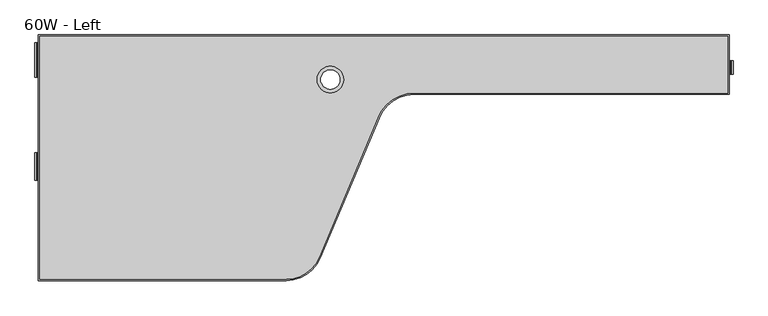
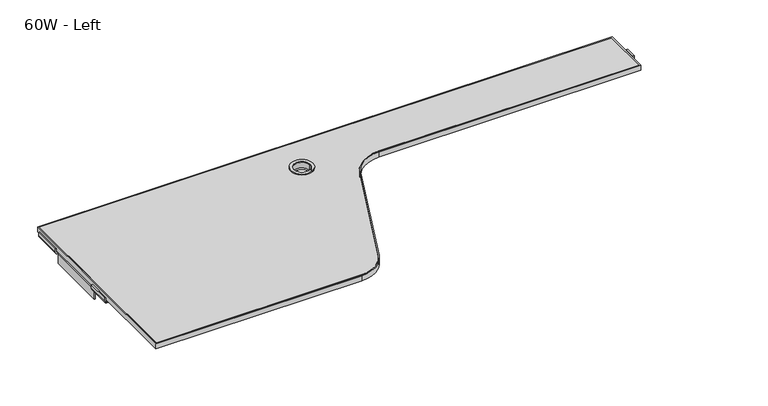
"""IFC4 building model written with IfcOpenShell, lengths in millimetres: furniture geometry, Steelcase Turnstone - Bivi - Table - Dual Top - Upper : 60W - Left."""

import ifcopenshell
import ifcopenshell.guid

model = None  # the IFC model being written
_history = None  # IfcOwnerHistory: only IFC2X3 demands one
_inside = {}  # id of a spatial element -> (the spatial element, [elements in it])
_under = {}  # id of a project, library or spatial element -> (it, [spatial elements below it])
_declared = {}  # id of a project -> (the project, [libraries it declares])
_typed = {}  # id of a type object -> (the type object, [elements of that type])
_made_of = {}  # id of a material, layer set ... -> (it, [elements and type objects made of it])


def new_model(schema):
    """Start an empty IFC model of exactly this schema.

    Asked for "IFC4X3", IfcOpenShell would pick the latest addendum, in which some entities
    have other attributes; the version numbers below select the first issue.
    IFC2X3 requires an IfcOwnerHistory on every rooted entity: one is made here for all.
    """
    global model, _history
    if schema == "IFC4X3":
        model = ifcopenshell.file(schema_version=(4, 3, 0, 0))
    else:
        model = ifcopenshell.file(schema=schema)
    _inside.clear()
    _under.clear()
    _declared.clear()
    _typed.clear()
    _made_of.clear()
    _history = None
    if model.schema == "IFC2X3":
        org = make("IfcOrganization", Name="unknown")
        user = make(
            "IfcPersonAndOrganization",
            ThePerson=make("IfcPerson", FamilyName="unknown"),
            TheOrganization=org,
        )
        app = make(
            "IfcApplication",
            ApplicationDeveloper=org,
            Version="unknown",
            ApplicationFullName="unknown",
            ApplicationIdentifier="unknown",
        )
        _history = make(
            "IfcOwnerHistory",
            OwningUser=user,
            OwningApplication=app,
            ChangeAction="ADDED",
            CreationDate=0,
        )
    return model


def make(cls, **values):
    """One entity of the class cls with the attributes given. An attribute that is None is left unset."""
    return model.create_entity(
        cls, **{name: value for name, value in values.items() if value is not None}
    )


def rooted(cls, **values):
    """An entity with a GlobalId (a new one), such as an element, a storey or a relation."""
    return make(cls, GlobalId=ifcopenshell.guid.new(), OwnerHistory=_history, **values)


def si_unit(unit_type, name, prefix=None):
    """IfcSIUnit, for example si_unit("LENGTHUNIT", "METRE", prefix="MILLI")."""
    return make("IfcSIUnit", UnitType=unit_type, Prefix=prefix, Name=name)


def assignment(units):
    """IfcUnitAssignment: the units of a project."""
    return None if units is None else make("IfcUnitAssignment", Units=units)


def point(xyz):
    """IfcCartesianPoint."""
    return None if xyz is None else make("IfcCartesianPoint", Coordinates=xyz)


def direction(xyz):
    """IfcDirection."""
    return None if xyz is None else make("IfcDirection", DirectionRatios=xyz)


def frame(location, z_axis=None, x_axis=None):
    """IfcAxis2Placement3D, a coordinate frame: its origin and axes. An axis left out is left unset."""
    return make(
        "IfcAxis2Placement3D",
        Location=point(location),
        Axis=direction(z_axis),
        RefDirection=direction(x_axis),
    )


def frame_2d(location, x_axis=None):
    """IfcAxis2Placement2D, a coordinate frame in the plane: its origin and x axis."""
    return make(
        "IfcAxis2Placement2D", Location=point(location), RefDirection=direction(x_axis)
    )


def origin():
    """The frame at (0, 0, 0) with its axes left unset."""
    return frame((0.0, 0.0, 0.0))


def place(relative_to, where):
    """IfcLocalPlacement: puts the frame where relative to a parent placement (None: the world)."""
    return make(
        "IfcLocalPlacement", PlacementRelTo=relative_to, RelativePlacement=where
    )


def context(
    kind, dimensions, precision=None, world=None, true_north=None, identifier=None
):
    """IfcGeometricRepresentationContext, for example the 3D "Model" context."""
    return make(
        "IfcGeometricRepresentationContext",
        ContextIdentifier=identifier,
        ContextType=kind,
        CoordinateSpaceDimension=dimensions,
        Precision=precision,
        WorldCoordinateSystem=world,
        TrueNorth=true_north,
    )


def project(units=None, contexts=None):
    """IfcProject with its units and contexts."""
    return rooted(
        "IfcProject",
        Name="project",
        RepresentationContexts=contexts,
        UnitsInContext=assignment(units),
    )


def spatial(cls, under=None, at=None, **own):
    """A site, building, storey or space (cls), placed at a placement, below another one or the project."""
    s = rooted(cls, ObjectPlacement=at, **own)
    if under is not None:
        _under.setdefault(under.id(), (under, []))[1].append(s)
    return s


def polyline(points):
    """IfcPolyline through the points."""
    return make("IfcPolyline", Points=[point(p) for p in points])


def circle_curve(where, radius):
    """IfcCircle in the frame where."""
    return make("IfcCircle", Position=where, Radius=radius)


def trimmed(basis, trim1, trim2, sense, master):
    """IfcTrimmedCurve: the piece of a basis curve between two trims."""
    return make(
        "IfcTrimmedCurve",
        BasisCurve=basis,
        Trim1=trim1,
        Trim2=trim2,
        SenseAgreement=sense,
        MasterRepresentation=master,
    )


def segment(curve, same_sense, transition):
    """IfcCompositeCurveSegment."""
    return make(
        "IfcCompositeCurveSegment",
        Transition=transition,
        SameSense=same_sense,
        ParentCurve=curve,
    )


def composite_curve(segments, self_intersect=None):
    """IfcCompositeCurve: segments joined end to end."""
    return make("IfcCompositeCurve", Segments=segments, SelfIntersect=self_intersect)


def outline(outer, holes=None, kind="AREA"):
    """IfcArbitraryClosedProfileDef: a profile drawn as a closed curve; with holes, ...WithVoids."""
    if holes is None:
        return make("IfcArbitraryClosedProfileDef", ProfileType=kind, OuterCurve=outer)
    return make(
        "IfcArbitraryProfileDefWithVoids",
        ProfileType=kind,
        OuterCurve=outer,
        InnerCurves=holes,
    )


def extrude(swept, where, along, depth):
    """IfcExtrudedAreaSolid: the profile swept, set in the frame where, extruded along a direction by depth."""
    return make(
        "IfcExtrudedAreaSolid",
        SweptArea=swept,
        Position=where,
        ExtrudedDirection=direction(along),
        Depth=depth,
    )


def faces_of(points, faces, orient=None, outer=None):
    """IfcFace entities. A face is a list of loops; a loop is a list of indices into points, from 0.

    orient and outer hold one flag for each loop. By default every Orientation is true, the
    first loop of a face is its IfcFaceOuterBound and the others are IfcFaceBound.
    """
    made = []
    for i, loops in enumerate(faces):
        bounds = []
        for j, loop in enumerate(loops):
            is_outer = j == 0 if outer is None else outer[i][j]
            bounds.append(
                make(
                    "IfcFaceOuterBound" if is_outer else "IfcFaceBound",
                    Bound=make("IfcPolyLoop", Polygon=[points[k] for k in loop]),
                    Orientation=True if orient is None else orient[i][j],
                )
            )
        made.append(make("IfcFace", Bounds=bounds))
    return made


def faceted_brep(points, faces, orient=None, outer=None, voids=None):
    """IfcFacetedBrep: a solid bounded by flat faces; with voids (closed shells), ...WithVoids."""
    shared = [point(p) for p in points]
    hull = make("IfcClosedShell", CfsFaces=faces_of(shared, faces, orient, outer))
    if voids is None:
        return make("IfcFacetedBrep", Outer=hull)
    return make(
        "IfcFacetedBrepWithVoids",
        Outer=hull,
        Voids=[
            make(cls, CfsFaces=faces_of(shared, fs, o, b)) for cls, fs, o, b in voids
        ],
    )


def shape(context_of_items, identifier, shape_type, items):
    """IfcShapeRepresentation: the items that make up one representation, for example the "Body"."""
    return make(
        "IfcShapeRepresentation",
        ContextOfItems=context_of_items,
        RepresentationIdentifier=identifier,
        RepresentationType=shape_type,
        Items=items,
    )


def source(mapping_origin, context_of_items, identifier, shape_type, items):
    """IfcRepresentationMap: a shape defined once, which mapped items show again and again."""
    return make(
        "IfcRepresentationMap",
        MappingOrigin=mapping_origin,
        MappedRepresentation=shape(context_of_items, identifier, shape_type, items),
    )


def transform(
    local_origin,
    x_axis=None,
    y_axis=None,
    z_axis=None,
    scale=None,
    scale2=None,
    scale3=None,
    uniform=True,
):
    """IfcCartesianTransformationOperator3D, or its non-uniform kind. x_axis, y_axis, z_axis: its Axis1, 2, 3."""
    if uniform:
        return make(
            "IfcCartesianTransformationOperator3D",
            Axis1=direction(x_axis),
            Axis2=direction(y_axis),
            LocalOrigin=point(local_origin),
            Scale=scale,
            Axis3=direction(z_axis),
        )
    return make(
        "IfcCartesianTransformationOperator3DnonUniform",
        Axis1=direction(x_axis),
        Axis2=direction(y_axis),
        LocalOrigin=point(local_origin),
        Scale=scale,
        Axis3=direction(z_axis),
        Scale2=scale2,
        Scale3=scale3,
    )


def mapped(mapping_source, mapping_target):
    """IfcMappedItem: shows the shape of a source again, moved by a transform."""
    return make(
        "IfcMappedItem", MappingSource=mapping_source, MappingTarget=mapping_target
    )


def made_of(thing, what):
    """Note that an element or type object is made of a material, layer set ...; save() writes the relation."""
    if what is not None:
        _made_of.setdefault(what.id(), (what, []))[1].append(thing)
    return thing


def element(
    cls,
    number,
    at=None,
    inside=None,
    cuts=None,
    type_object=None,
    material=None,
    context=None,
    identifier="Body",
    shape_type=None,
    held_by="IfcProductDefinitionShape",
    body=None,
    shapes=None,
    **own,
):
    """One element of the class cls, such as IfcWall. Its Tag is "e" and its number.

    at: its placement. inside: the storey or other place that contains it. cuts: it is an
    opening in that element (IfcRelVoidsElement). A single representation is given by context,
    identifier, shape_type and body (its items); several are given by shapes. held_by: the class
    of the entity that holds the representations. save() writes the other relations.
    """
    e = rooted(cls, Tag="e%d" % number, ObjectPlacement=at, **own)
    if body is not None:
        shapes = [shape(context, identifier, shape_type, body)]
    if shapes is not None:
        e.Representation = make(held_by, Representations=shapes)
    if inside is not None:
        _inside.setdefault(inside.id(), (inside, []))[1].append(e)
    if cuts is not None:
        rooted(
            "IfcRelVoidsElement", RelatingBuildingElement=cuts, RelatedOpeningElement=e
        )
    if type_object is not None:
        _typed.setdefault(type_object.id(), (type_object, []))[1].append(e)
    return made_of(e, material)


def aggregate(whole, parts):
    """IfcRelAggregates: a whole, such as a stair, and the parts it consists of."""
    return rooted("IfcRelAggregates", RelatingObject=whole, RelatedObjects=parts)


def save(model, path):
    """Write the relations noted so far, then the file.

    IfcRelAggregates (storeys below a building ...), IfcRelContainedInSpatialStructure (elements
    in a storey), IfcRelDefinesByType, IfcRelAssociatesMaterial and IfcRelDeclares: one each for
    every whole, place, type object, material and project.
    """
    for whole, parts in _under.values():
        aggregate(whole, parts)
    for where, things in _inside.values():
        rooted(
            "IfcRelContainedInSpatialStructure",
            RelatedElements=things,
            RelatingStructure=where,
        )
    for kind, things in _typed.values():
        rooted("IfcRelDefinesByType", RelatedObjects=things, RelatingType=kind)
    for what, things in _made_of.values():
        rooted("IfcRelAssociatesMaterial", RelatedObjects=things, RelatingMaterial=what)
    for by, libraries in _declared.values():
        rooted("IfcRelDeclares", RelatingContext=by, RelatedDefinitions=libraries)
    model.write(path)


def plane_surface(at):
    """IfcPlane: the flat surface through the origin of the frame at, square to its z axis."""
    return make("IfcPlane", Position=at)


def cylinder_surface(at, radius):
    """IfcCylindricalSurface: all points at the distance radius from the z axis of the frame at."""
    return make("IfcCylindricalSurface", Position=at, Radius=radius)


def revolved_surface(curve, axis_point, axis_direction):
    """IfcSurfaceOfRevolution: the curve turned about the line through axis_point along axis_direction."""
    return make(
        "IfcSurfaceOfRevolution",
        SweptCurve=make("IfcArbitraryOpenProfileDef", ProfileType="CURVE", Curve=curve),
        AxisPosition=make("IfcAxis1Placement", Location=point(axis_point), Axis=direction(axis_direction)),
    )


def advanced_brep(points, edges, surfaces, faces):
    """IfcAdvancedBrep: a solid bounded by faces that lie on surfaces and meet in shared edges.

    An edge is (start, end): straight between two places in points (the first is 0);
    or (start, end, curve); or (start, end, curve, False) where it runs against its curve.
    A face is (place in surfaces, loops), or (place, loops, False) where it looks against
    its surface's normal. A loop lists edges by number (the first is 1), with a minus sign
    where the edge is run from its end to its start. The first loop is the outer one.
    """
    corners = [point(p) for p in points]
    vertices = [make("IfcVertexPoint", VertexGeometry=c) for c in corners]
    made = []
    for start, end, *more in edges:
        made.append(
            make(
                "IfcEdgeCurve",
                EdgeStart=vertices[start],
                EdgeEnd=vertices[end],
                EdgeGeometry=more[0] if more else make("IfcPolyline", Points=[corners[start], corners[end]]),
                SameSense=more[1] if len(more) > 1 else True,
            )
        )
    hull = []
    for where, loops, *sense in faces:
        bounds = []
        for j, loop in enumerate(loops):
            ring = [make("IfcOrientedEdge", EdgeElement=made[abs(k) - 1], Orientation=k > 0) for k in loop]
            bounds.append(
                make(
                    "IfcFaceOuterBound" if j == 0 else "IfcFaceBound",
                    Bound=make("IfcEdgeLoop", EdgeList=ring),
                    Orientation=True,
                )
            )
        hull.append(make("IfcAdvancedFace", Bounds=bounds, FaceSurface=surfaces[where], SameSense=sense[0] if sense else True))
    return make("IfcAdvancedBrep", Outer=make("IfcClosedShell", CfsFaces=hull))


def furniture_60w_left_193ce283(model_context):
    return source(origin(), model_context, "Body", "SolidModel", [
        faceted_brep([(890.710046, 798.3804985, 1041.4865257), (890.710046, 798.3804985, 984.3365257), (839.910046, 798.3804985, 984.3365257), (839.910046, 798.3804985, 1041.4865257), (679.4202293, 353.2724638, 1039.9118156), (700.0875061, 353.2724638, 1039.9118156), (700.0875061, 353.2724638, 1008.3955413), (679.4202293, 353.2724638, 1008.3955413), (679.4202293, 353.2724638, 1007.3133509), (702.2312326, 353.2724638, 1007.3133509), (702.2312326, 353.2724638, 1041.4865257), (679.4202293, 353.2724638, 1041.4865257)], [[[0, 1, 2, 3]], [[4, 5, 6, 7, 8, 9, 10, 11]], [[5, 4, 0]], [[6, 5, 0]], [[7, 6, 0, 3]], [[8, 7, 3, 2]], [[9, 8, 2, 1]], [[10, 9, 1, 0]], [[11, 10, 0]], [[4, 11, 0]]]),
        faceted_brep([(176.3325988, 298.0312383, 1041.4865257), (176.3325988, 353.2724638, 1041.4865257), (176.3325988, 353.2724638, 1010.7646869), (176.3325988, 337.4886594, 1010.7646869), (176.3325988, 309.9526244, 1031.5145776), (176.3325988, 309.9526244, 1040.1793583), (176.3325988, 298.0312383, 1040.1793583), (678.7163849, 298.0312383, 1041.4865257), (702.7713731, 353.2724638, 1041.4865257), (702.7713731, 353.2724638, 1010.7646869), (695.8982594, 337.4886594, 1010.7646869), (683.9075949, 309.9526244, 1031.5145776), (683.9075949, 309.9526244, 1040.1793583), (678.7163849, 298.0312383, 1040.1793583)], [[[0, 1, 2, 3, 4, 5, 6]], [[1, 0, 7, 8]], [[2, 1, 8, 9]], [[3, 2, 9, 10]], [[4, 3, 10, 11]], [[5, 4, 11, 12]], [[6, 5, 12, 13]], [[0, 6, 13, 7]], [[8, 7, 13, 12, 11, 10, 9]]]),
        extrude(outline(composite_curve([segment(trimmed(circle_curve(frame_2d((1043.0122331, 1626.6961898)), 1.7676499), [point((1043.0122331, 1628.4638397))], [point((1041.2445831, 1626.6961898))], True, "CARTESIAN"), True, "CONTINUOUS"), segment(polyline([(1041.2445831, 1626.6961898), (1041.2445831, 1603.7962259), (1038.2067598, 1603.7962259), (1038.2067598, 1626.29999)]), True, "CONTINUOUS"), segment(trimmed(circle_curve(frame_2d((1043.4087962, 1626.29999)), 5.2020364), [point((1038.2067598, 1626.29999))], [point((1043.4087962, 1631.5020264))], False, "CARTESIAN"), True, "CONTINUOUS"), segment(polyline([(1043.4087962, 1631.5020264), (1052.5780574, 1631.5020264), (1052.5780574, 1628.4638397), (1043.0122331, 1628.4638397)]), True, "CONTINUOUS")], self_intersect=False)), frame((0.0, 731.0843589, 0.0), z_axis=(0.0, 1.0, 0.0), x_axis=(0.0, 0.0, 1.0)), (0.0, 0.0, 1.0), 28.5750242),
        extrude(outline(composite_curve([segment(polyline([(153.4, 294.1411651), (153.4, 812.4281826), (1620.25, 812.4281826), (1620.25, 691.0157049), (952.3033924, 691.0157049)]), True, "CONTINUOUS"), segment(trimmed(circle_curve(frame_2d((952.3033924, 606.3077967)), 84.7079081), [point((952.3033924, 691.0157049))], [point((874.2002094, 639.0999071))], True, "CARTESIAN"), True, "CONTINUOUS"), segment(polyline([(874.2002094, 639.0999071), (748.9750264, 340.8426346)]), True, "CONTINUOUS"), segment(trimmed(circle_curve(frame_2d((678.7163849, 370.3411651)), 76.2), [point((748.9750264, 340.8426346))], [point((678.7163849, 294.1411651))], False, "CARTESIAN"), True, "CONTINUOUS"), segment(polyline([(678.7163849, 294.1411651), (153.4, 294.1411651)]), True, "CONTINUOUS")], self_intersect=False), holes=[composite_curve([segment(trimmed(circle_curve(frame_2d((773.0295779, 720.0618051)), 20.4182782), [point((752.6112996, 720.0618051))], [point((793.4478561, 720.0618051))], True, "CARTESIAN"), True, "CONTINUOUS"), segment(trimmed(circle_curve(frame_2d((773.0295779, 720.0618051)), 20.4182782), [point((793.4478561, 720.0618051))], [point((752.6112996, 720.0618051))], True, "CARTESIAN"), True, "CONTINUOUS")], self_intersect=False)]), frame((0.0, 0.0, 1041.4865257), z_axis=(0.0, 0.0, 1.0), x_axis=(1.0, 0.0, 0.0)), (0.0, 0.0, 1.0), 13.9699806),
        advanced_brep(
        [(150.6059845, 291.3471738, 1055.4565063), (678.6792673, 291.3471738, 1055.4565063), (751.5511765, 339.7610219, 1055.4565063), (876.7763596, 638.0182943, 1055.4565063), (952.3033924, 688.2217049, 1055.4565063), (1623.8059845, 688.2217075, 1055.4565063), (1623.8059845, 815.2221738, 1055.4565063), (150.6059845, 815.2221738, 1055.4565063), (952.3033924, 691.0157049, 1055.4565063), (874.2002094, 639.0999071, 1055.4565063), (748.9750264, 340.8426346, 1055.4565063), (678.7163849, 294.1411651, 1055.4565063), (153.4, 294.1411651, 1055.4565063), (153.4, 812.4281826, 1055.4565063), (1620.25, 812.4281826, 1055.4565063), (1620.25, 691.0157049, 1055.4565063), (150.6059845, 291.3471738, 1041.4865257), (150.6059845, 815.2221738, 1041.4865257), (1623.8059845, 815.2221738, 1041.4865257), (1623.8059845, 688.2217075, 1041.4865257), (952.3033924, 688.2217075, 1041.4865257), (876.7763596, 638.0182943, 1041.4865257), (751.5511765, 339.7610219, 1041.4865257), (678.6792673, 291.3471738, 1041.4865257), (952.3033924, 691.0157049, 1041.4865257), (1620.25, 691.0157049, 1041.4865257), (1620.25, 812.4281826, 1041.4865257), (153.4, 812.4281826, 1041.4865257), (153.4, 294.1411651, 1041.4865257), (678.7163849, 294.1411651, 1041.4865257), (748.9750264, 340.8426346, 1041.4865257), (874.2002094, 639.0999071, 1041.4865257)],
        [
            (0, 1),
            (1, 2, circle_curve(frame((678.7163849, 370.3411651, 1055.4565063), z_axis=(0.0, 0.0, 1.0), x_axis=(-0.4063186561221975, 0.913731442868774, 0.0)), 78.994)),
            (2, 3),
            (3, 4, circle_curve(frame((952.3033924, 606.3077967, 1055.4565063), z_axis=(0.0, 0.0, -1.0), x_axis=(-0.4063186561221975, 0.913731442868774, 0.0)), 81.9139081)),
            (4, 5),
            (5, 6),
            (6, 7),
            (7, 0),
            (8, 9, circle_curve(frame((952.3033924, 606.3077967, 1055.4565063), z_axis=(0.0, 0.0, 1.0), x_axis=(-0.4063186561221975, 0.913731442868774, 0.0)), 84.7079081)),
            (9, 10),
            (10, 11, circle_curve(frame((678.7163849, 370.3411651, 1055.4565063), z_axis=(0.0, 0.0, -1.0), x_axis=(-0.4063186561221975, 0.913731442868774, 0.0)), 76.2)),
            (11, 12),
            (12, 13),
            (13, 14),
            (14, 15),
            (15, 8),
            (16, 17),
            (17, 18),
            (18, 19),
            (19, 20),
            (20, 21, circle_curve(frame((952.3033924, 606.3077967, 1041.4865257), z_axis=(0.0, 0.0, 1.0), x_axis=(-0.4063186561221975, 0.913731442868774, 0.0)), 81.9139081)),
            (21, 22),
            (22, 23, circle_curve(frame((678.7163849, 370.3411651, 1041.4865257), z_axis=(0.0, 0.0, -1.0), x_axis=(-0.4063186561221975, 0.913731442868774, 0.0)), 78.994)),
            (23, 16),
            (24, 25),
            (25, 26),
            (26, 27),
            (27, 28),
            (28, 29),
            (29, 30, circle_curve(frame((678.7163849, 370.3411651, 1041.4865257), z_axis=(0.0, 0.0, 1.0), x_axis=(-0.4063186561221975, 0.913731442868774, 0.0)), 76.2)),
            (30, 31),
            (31, 24, circle_curve(frame((952.3033924, 606.3077967, 1041.4865257), z_axis=(0.0, 0.0, -1.0), x_axis=(-0.4063186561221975, 0.913731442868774, 0.0)), 84.7079081)),
            (8, 24),
            (31, 9),
            (30, 10),
            (29, 11),
            (28, 12),
            (27, 13),
            (26, 14),
            (25, 15),
            (0, 16),
            (23, 1),
            (22, 2),
            (21, 3),
            (20, 4),
            (19, 5),
            (18, 6),
            (17, 7),
        ],
        [
            plane_surface(frame((917.884989, 683.7080759, 1055.4565063), z_axis=(0.0, 0.0, 1.0000000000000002), x_axis=(-0.913731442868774, -0.40631865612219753, 0.0))),
            plane_surface(frame((917.884989, 683.7080759, 1041.4865257), z_axis=(0.0, 0.0, -1.0000000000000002), x_axis=(0.913731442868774, 0.40631865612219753, 0.0))),
            cylinder_surface(frame((952.3033924, 606.3077967, 1041.4865257), z_axis=(0.0, 0.0, 1.0), x_axis=(-0.4063186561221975, 0.913731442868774, 0.0)), 84.7079081),
            plane_surface(frame((874.2002094, 639.0999071, 1055.4565063), z_axis=(-0.9220294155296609, 0.3871198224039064, 0.0), x_axis=(0.0, 0.0, -1.0))),
            revolved_surface(polyline([(647.7549033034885, 439.9675010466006, 1041.4865257), (647.7549033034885, 439.9675010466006, 1055.4565063)]), (678.7163849, 370.3411651, 1041.4865257), (0.0, 0.0, -1.0)),
            plane_surface(frame((678.7163849, 294.1411651, 1055.4565063), z_axis=(0.0, 1.0, 0.0), x_axis=(0.0, 0.0, -1.0))),
            plane_surface(frame((153.4, 294.1411651, 1055.4565063), z_axis=(1.0, 0.0, 0.0), x_axis=(0.0, 0.0, -1.0))),
            plane_surface(frame((153.4, 812.4281826, 1055.4565063), z_axis=(0.0, -1.0, 0.0), x_axis=(0.0, 0.0, -1.0))),
            plane_surface(frame((1620.25, 812.4281826, 1055.4565063), z_axis=(-1.0, 0.0, 0.0), x_axis=(0.0, 0.0, -1.0))),
            plane_surface(frame((1620.25, 691.0157049, 1055.4565063), z_axis=(0.0, 1.0, 0.0), x_axis=(0.0, 0.0, -1.0))),
            plane_surface(frame((150.6059845, 291.3471738, 1055.4565063), z_axis=(0.0, -1.0, 0.0), x_axis=(0.0, 0.0, -1.0))),
            cylinder_surface(frame((678.7163849, 370.3411651, 0.0), z_axis=(0.0, 0.0, 1.0), x_axis=(-0.4063186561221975, 0.913731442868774, 0.0)), 78.994),
            plane_surface(frame((751.5511765, 339.7610219, 1055.4565063), z_axis=(0.9220294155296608, -0.38711982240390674, 0.0), x_axis=(0.0, 0.0, -1.0))),
            revolved_surface(polyline([(919.0202433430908, 681.1551101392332, 1041.4865257), (919.0202433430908, 681.1551101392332, 1055.4565063)]), (952.3033924, 606.3077967, 0.0), (0.0, 0.0, -1.0)),
            plane_surface(frame((952.3033924, 688.2217075, 1055.4565063), z_axis=(0.0, -1.0, 0.0), x_axis=(0.0, 0.0, -1.0))),
            plane_surface(frame((1623.8059845, 688.2217075, 1055.4565063), z_axis=(1.0, 0.0, 0.0), x_axis=(0.0, 0.0, -1.0))),
            plane_surface(frame((1623.8059845, 815.2221738, 1055.4565063), z_axis=(0.0, 1.0, 0.0), x_axis=(0.0, 0.0, -1.0))),
            plane_surface(frame((150.6059845, 815.2221738, 1055.4565063), z_axis=(-1.0, 0.0, 0.0), x_axis=(0.0, 0.0, -1.0))),
        ],
        [
            (0, [[1, 2, 3, 4, 5, 6, 7, 8], [9, 10, 11, 12, 13, 14, 15, 16]]),
            (1, [[17, 18, 19, 20, 21, 22, 23, 24], [25, 26, 27, 28, 29, 30, 31, 32]]),
            (2, [[-9, 33, -32, 34]]),
            (3, [[-10, -34, -31, 35]]),
            (4, [[-11, -35, -30, 36]]),
            (5, [[-12, -36, -29, 37]]),
            (6, [[-13, -37, -28, 38]]),
            (7, [[-14, -38, -27, 39]]),
            (8, [[-15, -39, -26, 40]]),
            (9, [[-16, -40, -25, -33]]),
            (10, [[-1, 41, -24, 42]]),
            (11, [[-2, -42, -23, 43]]),
            (12, [[-3, -43, -22, 44]]),
            (13, [[-4, -44, -21, 45]]),
            (14, [[-5, -45, -20, 46]]),
            (15, [[-6, -46, -19, 47]]),
            (16, [[-7, -47, -18, 48]]),
            (17, [[-8, -48, -17, -41]]),
        ],
    ),
        advanced_brep(
        [(173.2955749, 724.9765806, 1033.5003172), (176.3325988, 724.9765806, 1033.5003172), (176.3325988, 724.9765806, 1035.9407705), (171.0287862, 724.9765806, 1041.2445831), (148.1288223, 724.9765806, 1041.2445831), (146.3611724, 724.9765806, 1043.0122331), (146.3611724, 724.9765806, 1052.5780574), (143.3229857, 724.9765806, 1052.5780574), (143.3229857, 724.9765806, 1043.4087962), (148.5250221, 724.9765806, 1038.2067598), (171.3677403, 724.9765806, 1038.2067598), (173.2955749, 724.9765806, 1036.2789253), (173.2955749, 564.321009, 1033.5003172), (176.3325988, 564.321009, 1033.5003172), (173.2955749, 564.321009, 1036.2789253), (171.3677403, 564.321009, 1038.2067598), (148.5250221, 564.321009, 1038.2067598), (143.3229857, 564.321009, 1043.4087962), (143.3229857, 564.321009, 1052.5780574), (146.3611724, 564.321009, 1052.5780574), (146.3611724, 564.321009, 1043.0122331), (148.1288223, 564.321009, 1041.2445831), (171.0287862, 564.321009, 1041.2445831), (176.3325988, 564.321009, 1035.9407705), (173.2955749, 505.2663324, 1033.5003172), (176.3325988, 505.2663324, 1033.5003172), (176.3325988, 505.2663324, 1035.9407705), (171.0287862, 505.2663324, 1041.2445831), (148.1288223, 505.2663324, 1041.2445831), (146.3611724, 505.2663324, 1043.0122331), (146.3611724, 505.2663324, 1052.5780574), (143.3229857, 505.2663324, 1052.5780574), (143.3229857, 505.2663324, 1043.4087962), (148.5250221, 505.2663324, 1038.2067598), (171.3677403, 505.2663324, 1038.2067598), (173.2955749, 505.2663324, 1036.2789253), (173.2955749, 348.2448747, 1033.5003172), (176.3325988, 348.2448747, 1033.5003172), (176.3325988, 798.5617693, 1033.5003172), (173.2955749, 798.5617693, 1033.5003172), (173.2955749, 798.5617693, 1036.2789253), (171.3677403, 798.5617693, 1038.2067598), (148.5250221, 798.5617693, 1038.2067598), (143.3229857, 798.5617693, 1043.4087962), (143.3229857, 798.5617693, 1052.5780574), (146.3611724, 798.5617693, 1052.5780574), (146.3611724, 798.5617693, 1043.0122331), (148.1288223, 798.5617693, 1041.2445831), (171.0287862, 798.5617693, 1041.2445831), (176.3325988, 798.5617693, 1035.9407705), (176.3325988, 794.9607992, 1010.7646869), (173.2955749, 794.9607992, 1010.7646869), (176.3325988, 348.2448747, 1010.7646869), (173.2955749, 348.2448747, 1010.7646869)],
        [
            (0, 1),
            (1, 2),
            (2, 3, circle_curve(frame((171.0287862, 724.9765806, 1035.9407705), z_axis=(0.0, -1.0, 0.0), x_axis=(-1.0, 0.0, 0.0)), 5.3038126)),
            (3, 4),
            (4, 5, circle_curve(frame((148.1288223, 724.9765806, 1043.0122331), z_axis=(0.0, 1.0, 0.0), x_axis=(-1.0, 0.0, 0.0)), 1.7676499)),
            (5, 6),
            (6, 7),
            (7, 8),
            (8, 9, circle_curve(frame((148.5250221, 724.9765806, 1043.4087962), z_axis=(0.0, -1.0, 0.0), x_axis=(-1.0, 0.0, 0.0)), 5.2020364)),
            (9, 10),
            (10, 11, circle_curve(frame((171.3677403, 724.9765806, 1036.2789253), z_axis=(0.0, 1.0, 0.0), x_axis=(-1.0, 0.0, 0.0)), 1.9278345)),
            (11, 0),
            (0, 12),
            (12, 13),
            (13, 1),
            (12, 14),
            (14, 15, circle_curve(frame((171.3677403, 564.321009, 1036.2789253), z_axis=(0.0, -1.0, 0.0), x_axis=(-1.0, 0.0, 0.0)), 1.9278345)),
            (15, 16),
            (16, 17, circle_curve(frame((148.5250221, 564.321009, 1043.4087962), z_axis=(0.0, 1.0, 0.0), x_axis=(-1.0, 0.0, 0.0)), 5.2020364)),
            (17, 18),
            (18, 19),
            (19, 20),
            (20, 21, circle_curve(frame((148.1288223, 564.321009, 1043.0122331), z_axis=(0.0, -1.0, 0.0), x_axis=(-1.0, 0.0, 0.0)), 1.7676499)),
            (21, 22),
            (22, 23, circle_curve(frame((171.0287862, 564.321009, 1035.9407705), z_axis=(0.0, 1.0, 0.0), x_axis=(-1.0, 0.0, 0.0)), 5.3038126)),
            (23, 13),
            (24, 25),
            (25, 26),
            (26, 27, circle_curve(frame((171.0287862, 505.2663324, 1035.9407705), z_axis=(0.0, -1.0, 0.0), x_axis=(-1.0, 0.0, 0.0)), 5.3038126)),
            (27, 28),
            (28, 29, circle_curve(frame((148.1288223, 505.2663324, 1043.0122331), z_axis=(0.0, 1.0, 0.0), x_axis=(-1.0, 0.0, 0.0)), 1.7676499)),
            (29, 30),
            (30, 31),
            (31, 32),
            (32, 33, circle_curve(frame((148.5250221, 505.2663324, 1043.4087962), z_axis=(0.0, -1.0, 0.0), x_axis=(-1.0, 0.0, 0.0)), 5.2020364)),
            (33, 34),
            (34, 35, circle_curve(frame((171.3677403, 505.2663324, 1036.2789253), z_axis=(0.0, 1.0, 0.0), x_axis=(-1.0, 0.0, 0.0)), 1.9278345)),
            (35, 24),
            (24, 36),
            (36, 37),
            (37, 25),
            (38, 39),
            (39, 40),
            (40, 41, circle_curve(frame((171.3677403, 798.5617693, 1036.2789253), z_axis=(0.0, -1.0, 0.0), x_axis=(-1.0, 0.0, 0.0)), 1.9278345)),
            (41, 42),
            (42, 43, circle_curve(frame((148.5250221, 798.5617693, 1043.4087962), z_axis=(0.0, 1.0, 0.0), x_axis=(-1.0, 0.0, 0.0)), 5.2020364)),
            (43, 44),
            (44, 45),
            (45, 46),
            (46, 47, circle_curve(frame((148.1288223, 798.5617693, 1043.0122331), z_axis=(0.0, -1.0, 0.0), x_axis=(-1.0, 0.0, 0.0)), 1.7676499)),
            (47, 48),
            (48, 49, circle_curve(frame((171.0287862, 798.5617693, 1035.9407705), z_axis=(0.0, 1.0, 0.0), x_axis=(-1.0, 0.0, 0.0)), 5.3038126)),
            (49, 38),
            (38, 50),
            (50, 51),
            (51, 39),
            (28, 21),
            (20, 29),
            (4, 47),
            (46, 5),
            (27, 22),
            (3, 48),
            (26, 23),
            (2, 49),
            (37, 52),
            (52, 50),
            (53, 36),
            (35, 14),
            (11, 40),
            (51, 53),
            (34, 15),
            (10, 41),
            (33, 16),
            (9, 42),
            (32, 17),
            (8, 43),
            (31, 18),
            (7, 44),
            (30, 19),
            (6, 45),
            (52, 53),
        ],
        [
            plane_surface(frame((-124.7902, 724.9765806, 1074.5657681), z_axis=(0.0, -1.0, 0.0), x_axis=(1.0, 0.0, 0.0))),
            plane_surface(frame((-124.7902, 724.9765806, 1033.5003172), z_axis=(0.0, 0.0, 1.0), x_axis=(1.0, 0.0, 0.0))),
            plane_surface(frame((-124.7902, 564.321009, 1033.5003172), z_axis=(0.0, 1.0, 0.0), x_axis=(1.0, 0.0, 0.0))),
            plane_surface(frame((-124.7902, 505.2663324, 1074.5657681), z_axis=(0.0, -1.0, 0.0), x_axis=(1.0, 0.0, 0.0))),
            plane_surface(frame((-124.7902, 505.2663324, 1033.5003172), z_axis=(0.0, 0.0, 1.0), x_axis=(1.0, 0.0, 0.0))),
            plane_surface(frame((-124.7902, 798.5617693, 1033.5003172), z_axis=(0.0, 1.0, 0.0), x_axis=(1.0, 0.0, 0.0))),
            plane_surface(frame((-124.7902, 791.6082574, 989.5975705), z_axis=(0.0, 0.9876883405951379, -0.1564344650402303), x_axis=(1.0, 0.0, 0.0))),
            revolved_surface(polyline([(146.3611724, 564.321009, 1043.0122331), (146.3611724, 505.2663324, 1043.0122331)]), (148.1288223, 815.2221738, 1043.0122331), (0.0, 1.0, 0.0)),
            revolved_surface(polyline([(146.3611724, 798.5617693, 1043.0122331), (146.3611724, 724.9765806, 1043.0122331)]), (148.1288223, 815.2221738, 1043.0122331), (0.0, 1.0, 0.0)),
            plane_surface(frame((171.0287862, 348.2448747, 1041.2445831), z_axis=(0.0, 0.0, 1.0), x_axis=(0.0, 1.0, 0.0))),
            cylinder_surface(frame((171.0287862, 815.2221738, 1035.9407705), z_axis=(0.0, -1.0, 0.0), x_axis=(-1.0, 0.0, 0.0)), 5.3038126),
            plane_surface(frame((176.3325988, 348.2448747, 1010.7646869), z_axis=(1.0, 0.0, 0.0), x_axis=(0.0, 1.0, 0.0))),
            plane_surface(frame((173.2955749, 348.2448747, 1036.2789253), z_axis=(-1.0, 0.0, 0.0), x_axis=(0.0, 1.0, 0.0))),
            revolved_surface(polyline([(169.43990580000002, 564.321009, 1036.2789253), (169.43990580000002, 505.2663324, 1036.2789253)]), (171.3677403, 815.2221738, 1036.2789253), (0.0, 1.0, 0.0)),
            revolved_surface(polyline([(169.43990580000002, 798.5617693, 1036.2789253), (169.43990580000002, 724.9765806, 1036.2789253)]), (171.3677403, 815.2221738, 1036.2789253), (0.0, 1.0, 0.0)),
            plane_surface(frame((148.5250221, 348.2448747, 1038.2067598), z_axis=(0.0, 0.0, -1.0), x_axis=(0.0, 1.0, 0.0))),
            cylinder_surface(frame((148.5250221, 815.2221738, 1043.4087962), z_axis=(0.0, -1.0, 0.0), x_axis=(-1.0, 0.0, 0.0)), 5.2020364),
            plane_surface(frame((143.3229857, 348.2448747, 1052.5780574), z_axis=(-1.0, 0.0, 0.0), x_axis=(0.0, 1.0, 0.0))),
            plane_surface(frame((146.3611724, 348.2448747, 1052.5780574), z_axis=(0.0, 0.0, 1.0), x_axis=(0.0, 1.0, 0.0))),
            plane_surface(frame((146.3611724, 348.2448747, 1043.0122331), z_axis=(1.0, 0.0, 0.0), x_axis=(0.0, 1.0, 0.0))),
            plane_surface(frame((173.2955749, 348.2448747, 1010.7646869), z_axis=(0.0, 0.0, -1.0), x_axis=(0.0, 1.0, 0.0))),
            plane_surface(frame((146.3611724, 348.2448747, 1052.5780574), z_axis=(0.0, -1.0, 0.0), x_axis=(0.0, 0.0, 1.0))),
        ],
        [
            (0, [[1, 2, 3, 4, 5, 6, 7, 8, 9, 10, 11, 12]]),
            (1, [[-1, 13, 14, 15]]),
            (2, [[-14, 16, 17, 18, 19, 20, 21, 22, 23, 24, 25, 26]]),
            (3, [[27, 28, 29, 30, 31, 32, 33, 34, 35, 36, 37, 38]]),
            (4, [[-27, 39, 40, 41]]),
            (5, [[42, 43, 44, 45, 46, 47, 48, 49, 50, 51, 52, 53]]),
            (6, [[-42, 54, 55, 56]]),
            (7, [[57, -23, 58, -31]]),
            (8, [[59, -50, 60, -5]]),
            (9, [[-57, -30, 61, -24]]),
            (9, [[-59, -4, 62, -51]]),
            (10, [[-61, -29, 63, -25]]),
            (10, [[-62, -3, 64, -52]]),
            (11, [[65, 66, -54, -53, -64, -2, -15, -26, -63, -28, -41]]),
            (12, [[67, -39, -38, 68, -16, -13, -12, 69, -43, -56, 70]]),
            (13, [[-68, -37, 71, -17]]),
            (14, [[-69, -11, 72, -44]]),
            (15, [[-71, -36, 73, -18]]),
            (15, [[-72, -10, 74, -45]]),
            (16, [[-73, -35, 75, -19]]),
            (16, [[-74, -9, 76, -46]]),
            (17, [[-75, -34, 77, -20]]),
            (17, [[-76, -8, 78, -47]]),
            (18, [[-77, -33, 79, -21]]),
            (18, [[-78, -7, 80, -48]]),
            (19, [[-79, -32, -58, -22]]),
            (19, [[-80, -6, -60, -49]]),
            (20, [[81, -70, -55, -66]]),
            (21, [[-81, -65, -40, -67]]),
        ],
    ),
        extrude(outline(composite_curve([segment(polyline([(1010.7646869, 153.4), (1036.4895002, 153.4)]), True, "CONTINUOUS"), segment(trimmed(circle_curve(frame_2d((1036.4895002, 155.1172597)), 1.7172597), [point((1036.4895002, 153.4))], [point((1038.2067598, 155.1172597))], True, "CARTESIAN"), True, "CONTINUOUS"), segment(polyline([(1038.2067598, 155.1172597), (1038.2067598, 171.3677403)]), True, "CONTINUOUS"), segment(trimmed(circle_curve(frame_2d((1036.2789253, 171.3677403)), 1.9278345), [point((1038.2067598, 171.3677403))], [point((1036.325297, 173.2950171))], True, "CARTESIAN"), True, "CONTINUOUS"), segment(polyline([(1036.325297, 173.2950171), (1036.325297, 176.3186413)]), True, "CONTINUOUS"), segment(trimmed(circle_curve(frame_2d((1035.9407705, 171.0287862)), 5.3038126), [point((1036.325297, 176.3186413))], [point((1041.2445831, 171.0287862))], False, "CARTESIAN"), True, "CONTINUOUS"), segment(polyline([(1041.2445831, 171.0287862), (1041.2445831, 155.5630502)]), True, "CONTINUOUS"), segment(trimmed(circle_curve(frame_2d((1036.2875174, 155.5630502)), 4.9570657), [point((1041.2445831, 155.5630502))], [point((1036.2875174, 150.6059845))], False, "CARTESIAN"), True, "CONTINUOUS"), segment(polyline([(1036.2875174, 150.6059845), (1010.7646869, 150.6059845), (1010.7646869, 153.4)]), True, "CONTINUOUS")], self_intersect=False)), frame((0.0, 564.3211323, 0.0), z_axis=(0.0, 1.0, 0.0), x_axis=(0.0, 0.0, 1.0)), (0.0, 0.0, 1.0), 160.6554483),
        extrude(outline(composite_curve([segment(trimmed(circle_curve(frame_2d((773.0295779, 720.0618051)), 28.3365682), [point((744.6930097, 720.0618051))], [point((801.3661461, 720.0618051))], False, "CARTESIAN"), True, "CONTINUOUS"), segment(trimmed(circle_curve(frame_2d((773.0295779, 720.0618051)), 28.3365682), [point((801.3661461, 720.0618051))], [point((744.6930097, 720.0618051))], False, "CARTESIAN"), True, "CONTINUOUS")], self_intersect=False), holes=[composite_curve([segment(trimmed(circle_curve(frame_2d((773.0295779, 720.0618051)), 20.4182782), [point((752.6112996, 720.0618051))], [point((793.4478561, 720.0618051))], True, "CARTESIAN"), True, "CONTINUOUS"), segment(trimmed(circle_curve(frame_2d((773.0295779, 720.0618051)), 20.4182782), [point((793.4478561, 720.0618051))], [point((752.6112996, 720.0618051))], True, "CARTESIAN"), True, "CONTINUOUS")], self_intersect=False)]), frame((0.0, 0.0, 1036.8869459), z_axis=(0.0, 0.0, 1.0), x_axis=(1.0, 0.0, 0.0)), (0.0, 0.0, 1.0), 21.3373179),
    ])


if __name__ == "__main__":
    model = new_model("IFC4")
    model_context = context("Model", 3, world=origin())
    ifc_project = project(units=[si_unit("LENGTHUNIT", "METRE", prefix="MILLI")], contexts=[model_context])
    site = spatial("IfcSite", under=ifc_project)
    building = spatial("IfcBuilding", under=site)
    placement = place(None, origin())
    furniture_60w_left_shape = furniture_60w_left_193ce283(model_context)
    element("IfcFurniture", 1, ObjectType="Steelcase Turnstone - Bivi - Table - Dual Top - Upper : 60W - Left", at=placement, inside=building, context=model_context, shape_type="MappedRepresentation", body=[
        mapped(furniture_60w_left_shape, transform((0.0, 0.0, 0.0), x_axis=(1.0, 0.0, 0.0), y_axis=(0.0, 1.0, 0.0), z_axis=(0.0, 0.0, 1.0))),
    ])
    save(model, "model.ifc")
